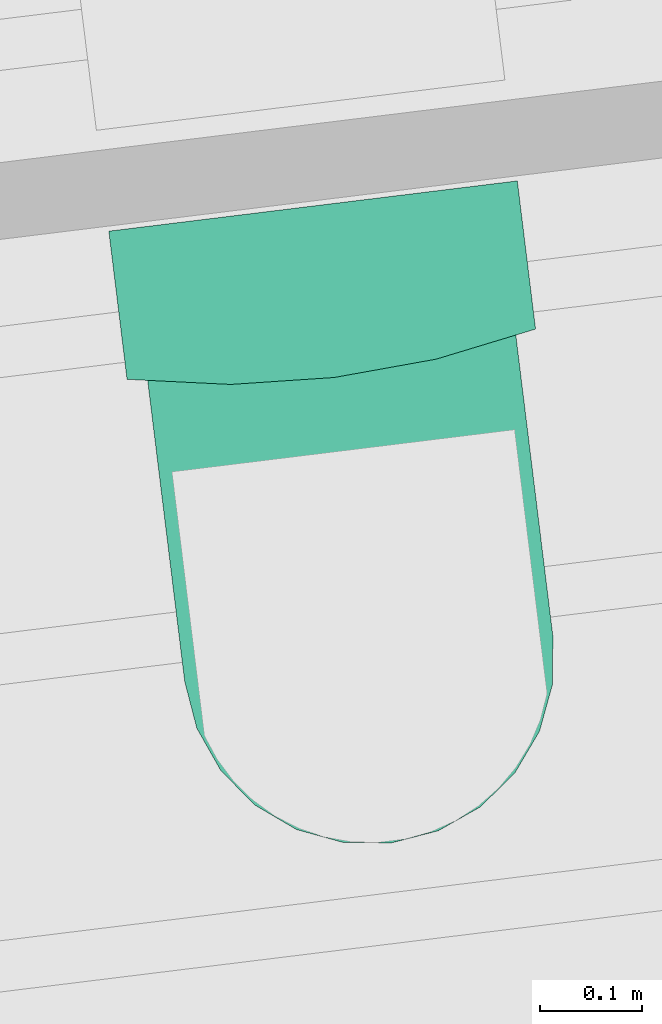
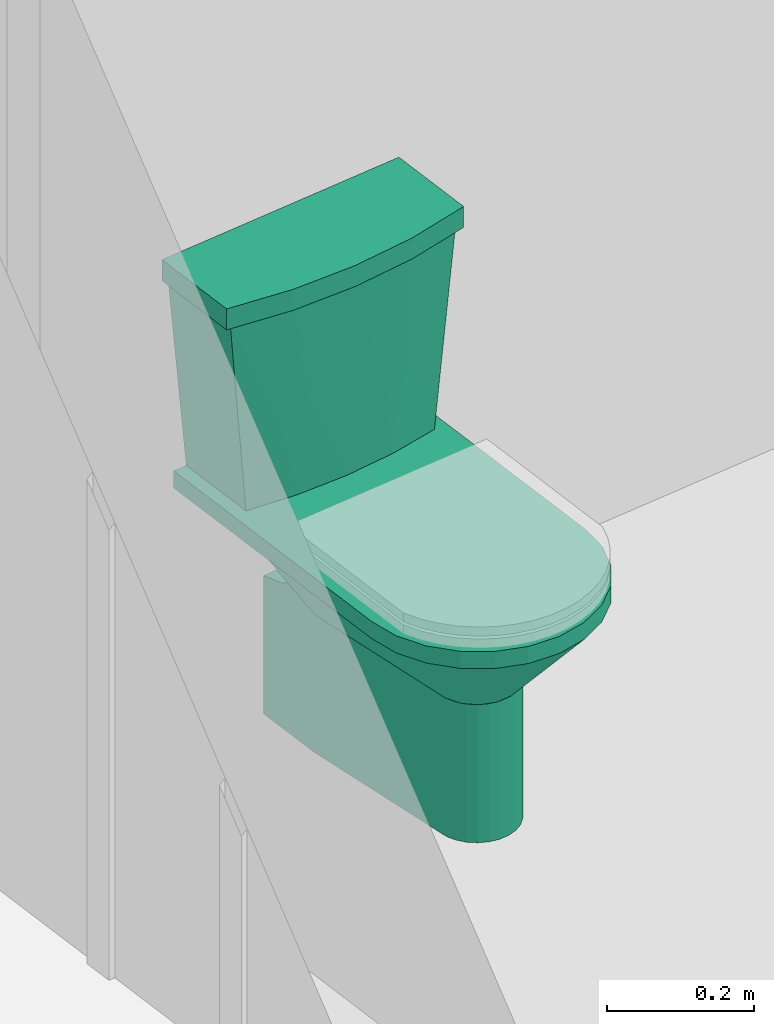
# One storey, part 55 of 75: 2 flow terminals.
"""IFC2X3 building model written with IfcOpenShell, lengths in metres."""

import ifcopenshell
import ifcopenshell.guid

model = None  # the IFC model being written
_history = None  # IfcOwnerHistory: only IFC2X3 demands one
_inside = {}  # id of a spatial element -> (the spatial element, [elements in it])
_under = {}  # id of a project, library or spatial element -> (it, [spatial elements below it])
_declared = {}  # id of a project -> (the project, [libraries it declares])
_typed = {}  # id of a type object -> (the type object, [elements of that type])
_made_of = {}  # id of a material, layer set ... -> (it, [elements and type objects made of it])


def new_model(schema):
    """Start an empty IFC model of exactly this schema.

    Asked for "IFC4X3", IfcOpenShell would pick the latest addendum, in which some entities
    have other attributes; the version numbers below select the first issue.
    IFC2X3 requires an IfcOwnerHistory on every rooted entity: one is made here for all.
    """
    global model, _history
    if schema == "IFC4X3":
        model = ifcopenshell.file(schema_version=(4, 3, 0, 0))
    else:
        model = ifcopenshell.file(schema=schema)
    _inside.clear()
    _under.clear()
    _declared.clear()
    _typed.clear()
    _made_of.clear()
    _history = None
    if model.schema == "IFC2X3":
        org = make("IfcOrganization", Name="unknown")
        user = make(
            "IfcPersonAndOrganization",
            ThePerson=make("IfcPerson", FamilyName="unknown"),
            TheOrganization=org,
        )
        app = make(
            "IfcApplication",
            ApplicationDeveloper=org,
            Version="unknown",
            ApplicationFullName="unknown",
            ApplicationIdentifier="unknown",
        )
        _history = make(
            "IfcOwnerHistory",
            OwningUser=user,
            OwningApplication=app,
            ChangeAction="ADDED",
            CreationDate=0,
        )
    return model


def make(cls, **values):
    """One entity of the class cls with the attributes given. An attribute that is None is left unset."""
    return model.create_entity(
        cls, **{name: value for name, value in values.items() if value is not None}
    )


def entity(cls, *values):
    """Any entity or typed value of the class cls, its attributes in the order of the schema. None: left unset."""
    e = model.create_entity(cls)
    for i, value in enumerate(values):
        if value is not None:
            e[i] = value
    return e


def rooted(cls, **values):
    """An entity with a GlobalId (a new one), such as an element, a storey or a relation."""
    return make(cls, GlobalId=ifcopenshell.guid.new(), OwnerHistory=_history, **values)


def si_unit(unit_type, name, prefix=None):
    """IfcSIUnit, for example si_unit("LENGTHUNIT", "METRE", prefix="MILLI")."""
    return make("IfcSIUnit", UnitType=unit_type, Prefix=prefix, Name=name)


def converted_unit(unit_type, name, factor, base, dimensions=None, offset=None):
    """IfcConversionBasedUnit, such as the inch: factor (a typed value) times the base unit."""
    return make(
        "IfcConversionBasedUnit"
        if offset is None
        else "IfcConversionBasedUnitWithOffset",
        ConversionOffset=offset,
        Dimensions=None
        if dimensions is None
        else entity("IfcDimensionalExponents", *dimensions),
        UnitType=unit_type,
        Name=name,
        ConversionFactor=make(
            "IfcMeasureWithUnit", ValueComponent=factor, UnitComponent=base
        ),
    )


def derived_unit(unit_type, elements):
    """IfcDerivedUnit: a product of units, each with its exponent."""
    return make(
        "IfcDerivedUnit",
        Elements=[
            make("IfcDerivedUnitElement", Unit=unit, Exponent=power)
            for unit, power in elements
        ],
        UnitType=unit_type,
    )


def assignment(units):
    """IfcUnitAssignment: the units of a project."""
    return None if units is None else make("IfcUnitAssignment", Units=units)


def point(xyz):
    """IfcCartesianPoint."""
    return None if xyz is None else make("IfcCartesianPoint", Coordinates=xyz)


def direction(xyz):
    """IfcDirection."""
    return None if xyz is None else make("IfcDirection", DirectionRatios=xyz)


def frame(location, z_axis=None, x_axis=None):
    """IfcAxis2Placement3D, a coordinate frame: its origin and axes. An axis left out is left unset."""
    return make(
        "IfcAxis2Placement3D",
        Location=point(location),
        Axis=direction(z_axis),
        RefDirection=direction(x_axis),
    )


def origin():
    """The frame at (0, 0, 0) with its axes left unset."""
    return frame((0.0, 0.0, 0.0))


def place(relative_to, where):
    """IfcLocalPlacement: puts the frame where relative to a parent placement (None: the world)."""
    return make(
        "IfcLocalPlacement", PlacementRelTo=relative_to, RelativePlacement=where
    )


def context(
    kind, dimensions, precision=None, world=None, true_north=None, identifier=None
):
    """IfcGeometricRepresentationContext, for example the 3D "Model" context."""
    return make(
        "IfcGeometricRepresentationContext",
        ContextIdentifier=identifier,
        ContextType=kind,
        CoordinateSpaceDimension=dimensions,
        Precision=precision,
        WorldCoordinateSystem=world,
        TrueNorth=true_north,
    )


def subcontext(parent, identifier, kind, view, scale=None):
    """IfcGeometricRepresentationSubContext, for example "Body" below "Model"."""
    return make(
        "IfcGeometricRepresentationSubContext",
        ContextIdentifier=identifier,
        ContextType=kind,
        ParentContext=parent,
        TargetScale=scale,
        TargetView=view,
    )


def project(units=None, contexts=None):
    """IfcProject with its units and contexts."""
    return rooted(
        "IfcProject",
        Name="project",
        RepresentationContexts=contexts,
        UnitsInContext=assignment(units),
    )


def spatial(cls, under=None, at=None, **own):
    """A site, building, storey or space (cls), placed at a placement, below another one or the project."""
    s = rooted(cls, ObjectPlacement=at, **own)
    if under is not None:
        _under.setdefault(under.id(), (under, []))[1].append(s)
    return s


def faces_of(points, faces, orient=None, outer=None):
    """IfcFace entities. A face is a list of loops; a loop is a list of indices into points, from 0.

    orient and outer hold one flag for each loop. By default every Orientation is true, the
    first loop of a face is its IfcFaceOuterBound and the others are IfcFaceBound.
    """
    made = []
    for i, loops in enumerate(faces):
        bounds = []
        for j, loop in enumerate(loops):
            is_outer = j == 0 if outer is None else outer[i][j]
            bounds.append(
                make(
                    "IfcFaceOuterBound" if is_outer else "IfcFaceBound",
                    Bound=make("IfcPolyLoop", Polygon=[points[k] for k in loop]),
                    Orientation=True if orient is None else orient[i][j],
                )
            )
        made.append(make("IfcFace", Bounds=bounds))
    return made


def faceted_brep(points, faces, orient=None, outer=None, voids=None):
    """IfcFacetedBrep: a solid bounded by flat faces; with voids (closed shells), ...WithVoids."""
    shared = [point(p) for p in points]
    hull = make("IfcClosedShell", CfsFaces=faces_of(shared, faces, orient, outer))
    if voids is None:
        return make("IfcFacetedBrep", Outer=hull)
    return make(
        "IfcFacetedBrepWithVoids",
        Outer=hull,
        Voids=[
            make(cls, CfsFaces=faces_of(shared, fs, o, b)) for cls, fs, o, b in voids
        ],
    )


def shape(context_of_items, identifier, shape_type, items):
    """IfcShapeRepresentation: the items that make up one representation, for example the "Body"."""
    return make(
        "IfcShapeRepresentation",
        ContextOfItems=context_of_items,
        RepresentationIdentifier=identifier,
        RepresentationType=shape_type,
        Items=items,
    )


def source(mapping_origin, context_of_items, identifier, shape_type, items):
    """IfcRepresentationMap: a shape defined once, which mapped items show again and again."""
    return make(
        "IfcRepresentationMap",
        MappingOrigin=mapping_origin,
        MappedRepresentation=shape(context_of_items, identifier, shape_type, items),
    )


def transform(
    local_origin,
    x_axis=None,
    y_axis=None,
    z_axis=None,
    scale=None,
    scale2=None,
    scale3=None,
    uniform=True,
):
    """IfcCartesianTransformationOperator3D, or its non-uniform kind. x_axis, y_axis, z_axis: its Axis1, 2, 3."""
    if uniform:
        return make(
            "IfcCartesianTransformationOperator3D",
            Axis1=direction(x_axis),
            Axis2=direction(y_axis),
            LocalOrigin=point(local_origin),
            Scale=scale,
            Axis3=direction(z_axis),
        )
    return make(
        "IfcCartesianTransformationOperator3DnonUniform",
        Axis1=direction(x_axis),
        Axis2=direction(y_axis),
        LocalOrigin=point(local_origin),
        Scale=scale,
        Axis3=direction(z_axis),
        Scale2=scale2,
        Scale3=scale3,
    )


def mapped(mapping_source, mapping_target):
    """IfcMappedItem: shows the shape of a source again, moved by a transform."""
    return make(
        "IfcMappedItem", MappingSource=mapping_source, MappingTarget=mapping_target
    )


def material(Name=None, Category=None):
    """IfcMaterial."""
    return make("IfcMaterial", Name=Name, Category=Category)


def material_list(materials):
    """IfcMaterialList."""
    return make("IfcMaterialList", Materials=materials)


def made_of(thing, what):
    """Note that an element or type object is made of a material, layer set ...; save() writes the relation."""
    if what is not None:
        _made_of.setdefault(what.id(), (what, []))[1].append(thing)
    return thing


def type_object(cls, material=None, **own):
    """A type object (cls), such as IfcWallType, which elements share."""
    return made_of(rooted(cls, **own), material)


def type_shapes(of_type, sources):
    """Give a type object the sources (RepresentationMaps) that its elements show as mapped items."""
    of_type.RepresentationMaps = sources


def element(
    cls,
    number,
    at=None,
    inside=None,
    cuts=None,
    type_object=None,
    material=None,
    context=None,
    identifier="Body",
    shape_type=None,
    held_by="IfcProductDefinitionShape",
    body=None,
    shapes=None,
    **own,
):
    """One element of the class cls, such as IfcWall. Its Tag is "e" and its number.

    at: its placement. inside: the storey or other place that contains it. cuts: it is an
    opening in that element (IfcRelVoidsElement). A single representation is given by context,
    identifier, shape_type and body (its items); several are given by shapes. held_by: the class
    of the entity that holds the representations. save() writes the other relations.
    """
    e = rooted(cls, Tag="e%d" % number, ObjectPlacement=at, **own)
    if body is not None:
        shapes = [shape(context, identifier, shape_type, body)]
    if shapes is not None:
        e.Representation = make(held_by, Representations=shapes)
    if inside is not None:
        _inside.setdefault(inside.id(), (inside, []))[1].append(e)
    if cuts is not None:
        rooted(
            "IfcRelVoidsElement", RelatingBuildingElement=cuts, RelatedOpeningElement=e
        )
    if type_object is not None:
        _typed.setdefault(type_object.id(), (type_object, []))[1].append(e)
    return made_of(e, material)


def aggregate(whole, parts):
    """IfcRelAggregates: a whole, such as a stair, and the parts it consists of."""
    return rooted("IfcRelAggregates", RelatingObject=whole, RelatedObjects=parts)


def save(model, path):
    """Write the relations noted so far, then the file.

    IfcRelAggregates (storeys below a building ...), IfcRelContainedInSpatialStructure (elements
    in a storey), IfcRelDefinesByType, IfcRelAssociatesMaterial and IfcRelDeclares: one each for
    every whole, place, type object, material and project.
    """
    for whole, parts in _under.values():
        aggregate(whole, parts)
    for where, things in _inside.values():
        rooted(
            "IfcRelContainedInSpatialStructure",
            RelatedElements=things,
            RelatingStructure=where,
        )
    for kind, things in _typed.values():
        rooted("IfcRelDefinesByType", RelatedObjects=things, RelatingType=kind)
    for what, things in _made_of.values():
        rooted("IfcRelAssociatesMaterial", RelatedObjects=things, RelatingMaterial=what)
    for by, libraries in _declared.values():
        rooted("IfcRelDeclares", RelatingContext=by, RelatedDefinitions=libraries)
    model.write(path)


model = new_model("IFC2X3")

# Units and contexts
model_context = context("Model", 3, precision=1e-05, world=origin(), true_north=direction((6.123031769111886e-17, 1.0)))
body_context = subcontext(model_context, "Body", "Model", "MODEL_VIEW")
ifc_project = project(units=[si_unit("LENGTHUNIT", "METRE"), si_unit("AREAUNIT", "SQUARE_METRE"), si_unit("VOLUMEUNIT", "CUBIC_METRE"), converted_unit("PLANEANGLEUNIT", "DEGREE", entity("IfcRatioMeasure", 0.017453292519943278), si_unit("PLANEANGLEUNIT", "RADIAN"), dimensions=[0, 0, 0, 0, 0, 0, 0]), si_unit("MASSUNIT", "GRAM", prefix="KILO"), derived_unit("MASSDENSITYUNIT", [(si_unit("MASSUNIT", "GRAM", prefix="KILO"), 1), (si_unit("LENGTHUNIT", "METRE"), -3)]), derived_unit("IONCONCENTRATIONUNIT", [(si_unit("MASSUNIT", "GRAM", prefix="KILO"), 1), (si_unit("LENGTHUNIT", "METRE"), -3)]), derived_unit("MOMENTOFINERTIAUNIT", [(si_unit("LENGTHUNIT", "METRE"), 4)]), si_unit("TIMEUNIT", "SECOND"), si_unit("FREQUENCYUNIT", "HERTZ"), si_unit("THERMODYNAMICTEMPERATUREUNIT", "DEGREE_CELSIUS"), derived_unit("THERMALTRANSMITTANCEUNIT", [(si_unit("MASSUNIT", "GRAM", prefix="KILO"), 1), (si_unit("THERMODYNAMICTEMPERATUREUNIT", "KELVIN"), -1), (si_unit("TIMEUNIT", "SECOND"), -3)]), derived_unit("THERMALCONDUCTANCEUNIT", [(si_unit("MASSUNIT", "GRAM", prefix="KILO"), 1), (si_unit("THERMODYNAMICTEMPERATUREUNIT", "KELVIN"), -1), (si_unit("TIMEUNIT", "SECOND"), -3), (si_unit("LENGTHUNIT", "METRE"), 1)]), derived_unit("VOLUMETRICFLOWRATEUNIT", [(si_unit("LENGTHUNIT", "METRE"), 3), (si_unit("TIMEUNIT", "SECOND"), -1)]), derived_unit("MASSFLOWRATEUNIT", [(si_unit("MASSUNIT", "GRAM", prefix="KILO"), 1), (si_unit("TIMEUNIT", "SECOND"), -1)]), derived_unit("ROTATIONALFREQUENCYUNIT", [(si_unit("TIMEUNIT", "SECOND"), -1)]), si_unit("ELECTRICCURRENTUNIT", "AMPERE"), si_unit("ELECTRICVOLTAGEUNIT", "VOLT"), si_unit("POWERUNIT", "WATT"), si_unit("FORCEUNIT", "NEWTON", prefix="KILO"), si_unit("ILLUMINANCEUNIT", "LUX"), si_unit("LUMINOUSFLUXUNIT", "LUMEN"), si_unit("LUMINOUSINTENSITYUNIT", "CANDELA"), derived_unit("USERDEFINED", [(si_unit("MASSUNIT", "GRAM", prefix="KILO"), -1), (si_unit("LENGTHUNIT", "METRE"), -2), (si_unit("TIMEUNIT", "SECOND"), 3), (si_unit("LUMINOUSFLUXUNIT", "LUMEN"), 1)]), derived_unit("USERDEFINED", [(si_unit("MASSUNIT", "GRAM", prefix="KILO"), 1), (si_unit("TIMEUNIT", "SECOND"), -3), (si_unit("LENGTHUNIT", "METRE"), 3), (si_unit("ELECTRICCURRENTUNIT", "AMPERE"), -2)]), derived_unit("SOUNDPOWERUNIT", [(si_unit("MASSUNIT", "GRAM", prefix="KILO"), 1), (si_unit("TIMEUNIT", "SECOND"), -3), (si_unit("LENGTHUNIT", "METRE"), 2)]), derived_unit("SOUNDPRESSUREUNIT", [(si_unit("MASSUNIT", "GRAM", prefix="KILO"), 1), (si_unit("LENGTHUNIT", "METRE"), -1), (si_unit("TIMEUNIT", "SECOND"), -2)]), derived_unit("LINEARVELOCITYUNIT", [(si_unit("LENGTHUNIT", "METRE"), 1), (si_unit("TIMEUNIT", "SECOND"), -1)]), si_unit("PRESSUREUNIT", "PASCAL"), derived_unit("USERDEFINED", [(si_unit("MASSUNIT", "GRAM", prefix="KILO"), 1), (si_unit("LENGTHUNIT", "METRE"), -2), (si_unit("TIMEUNIT", "SECOND"), -2)]), derived_unit("LINEARFORCEUNIT", [(si_unit("MASSUNIT", "GRAM", prefix="KILO"), 1), (si_unit("TIMEUNIT", "SECOND"), -2)]), derived_unit("PLANARFORCEUNIT", [(si_unit("MASSUNIT", "GRAM", prefix="KILO"), 1), (si_unit("LENGTHUNIT", "METRE"), -1), (si_unit("TIMEUNIT", "SECOND"), -2)]), derived_unit("SPECIFICHEATCAPACITYUNIT", [(si_unit("THERMODYNAMICTEMPERATUREUNIT", "KELVIN"), -1), (si_unit("LENGTHUNIT", "METRE"), 2), (si_unit("TIMEUNIT", "SECOND"), -2)]), derived_unit("HEATINGVALUEUNIT", [(si_unit("LENGTHUNIT", "METRE"), 2), (si_unit("TIMEUNIT", "SECOND"), -2)]), derived_unit("VAPORPERMEABILITYUNIT", [(si_unit("LENGTHUNIT", "METRE"), -1), (si_unit("TIMEUNIT", "SECOND"), 1)]), derived_unit("DYNAMICVISCOSITYUNIT", [(si_unit("MASSUNIT", "GRAM", prefix="KILO"), 1), (si_unit("TIMEUNIT", "SECOND"), -1), (si_unit("LENGTHUNIT", "METRE"), -1)]), derived_unit("THERMALEXPANSIONCOEFFICIENTUNIT", [(si_unit("THERMODYNAMICTEMPERATUREUNIT", "KELVIN"), -1)]), derived_unit("MODULUSOFELASTICITYUNIT", [(si_unit("MASSUNIT", "GRAM", prefix="KILO"), 1), (si_unit("LENGTHUNIT", "METRE"), -1), (si_unit("TIMEUNIT", "SECOND"), -2)]), derived_unit("ISOTHERMALMOISTURECAPACITYUNIT", [(si_unit("LENGTHUNIT", "METRE"), 3), (si_unit("MASSUNIT", "GRAM", prefix="KILO"), -1)]), derived_unit("MOISTUREDIFFUSIVITYUNIT", [(si_unit("TIMEUNIT", "SECOND"), -1), (si_unit("LENGTHUNIT", "METRE"), 2)])], contexts=[model_context])

# Site, building, storey
site_placement = place(None, origin())
site = spatial("IfcSite", under=ifc_project, at=site_placement, Name="Default", CompositionType="ELEMENT")
building_placement = place(site_placement, origin())
building = spatial("IfcBuilding", under=site, at=building_placement, Name="Projeto", CompositionType="ELEMENT")
storey_placement = place(building_placement, origin())
storey = spatial("IfcBuildingStorey", under=building, at=storey_placement, Name="Nível 1", CompositionType="ELEMENT", Elevation=0.0)

# Flow terminals
ifc_material_1 = material(Name="<Unnamed>")
ifc_material_2 = material(Name="Deca GE17 Branco Gelo Cerâmica")
ifc_material_list = material_list([ifc_material_1, ifc_material_2])
distribution_element_type_1 = type_object("IfcDistributionElementType", Name="Deca_Bacia Duna_P.707_Caixa Acoplada:Dual Flux 3 lpf / 6 lpf - Branco GE17", material=ifc_material_list)
shared_shape_1 = source(origin(), body_context, "Body", "Brep", [
    faceted_brep([(-8.963245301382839e-05, -0.005348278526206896, 0.2500000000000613), (0.012851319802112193, -0.005348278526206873, 0.2517037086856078), (0.024910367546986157, -0.0053482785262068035, 0.2566987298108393), (0.03526570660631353, -0.005348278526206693, 0.26464466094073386), (0.04321163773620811, -0.00534827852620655, 0.2750000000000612), (0.048206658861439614, -0.005348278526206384, 0.2870590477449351), (0.049910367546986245, -0.005348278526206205, 0.30000000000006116), (0.048206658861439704, -0.0053482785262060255, 0.31294095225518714), (0.04321163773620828, -0.005348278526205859, 0.32500000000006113), (0.03526570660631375, -0.005348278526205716, 0.3353553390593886), (0.02491036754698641, -0.005348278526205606, 0.34330127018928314), (0.01285131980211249, -0.005348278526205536, 0.3482962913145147), (-8.96324530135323e-05, -0.005348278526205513, 0.3500000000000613), (-0.013030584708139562, -0.005348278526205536, 0.3482962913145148), (-0.025089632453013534, -0.005348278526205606, 0.34330127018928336), (-0.03544497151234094, -0.005348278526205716, 0.3353553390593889), (-0.04339090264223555, -0.005348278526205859, 0.3250000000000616), (-0.048385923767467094, -0.0053482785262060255, 0.31294095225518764), (-0.05008963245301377, -0.005348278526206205, 0.30000000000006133), (-0.04838592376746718, -0.005348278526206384, 0.2870590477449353), (-0.04339090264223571, -0.00534827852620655, 0.27500000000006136), (-0.03544497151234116, -0.005348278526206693, 0.26464466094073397), (-0.025089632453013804, -0.0053482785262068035, 0.2566987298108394), (-0.013030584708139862, -0.005348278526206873, 0.25170370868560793), (-0.025089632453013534, 0.0, 0.3433012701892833), (-0.013030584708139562, 0.0, 0.3482962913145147), (-8.96324530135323e-05, 0.0, 0.35000000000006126), (0.01285131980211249, 0.0, 0.3482962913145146), (0.02491036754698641, 0.0, 0.343301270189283), (0.03526570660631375, 0.0, 0.33535533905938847), (0.04321163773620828, 0.0, 0.3250000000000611), (0.048206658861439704, 0.0, 0.3129409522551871), (0.049910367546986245, 0.0, 0.3000000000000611), (0.048206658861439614, 0.0, 0.28705904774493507), (0.04321163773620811, 0.0, 0.27500000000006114), (0.03526570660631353, 0.0, 0.2646446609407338), (0.024910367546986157, 0.0, 0.25669872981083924), (0.012851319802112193, 0.0, 0.25170370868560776), (-8.963245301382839e-05, 0.0, 0.25000000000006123), (-0.013030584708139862, 0.0, 0.2517037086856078), (-0.025089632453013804, 0.0, 0.25669872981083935), (-0.03544497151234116, 0.0, 0.2646446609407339), (-0.04339090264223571, 0.0, 0.27500000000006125), (-0.04838592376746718, 0.0, 0.2870590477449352), (-0.05008963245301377, 0.0, 0.3000000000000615), (-0.048385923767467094, 0.0, 0.31294095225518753), (-0.04339090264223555, 0.0, 0.32500000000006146), (-0.03544497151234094, 0.0, 0.33535533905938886)], [[[0, 1, 2, 3, 4, 5, 6, 7, 8, 9, 10, 11, 12, 13, 14, 15, 16, 17, 18, 19, 20, 21, 22, 23]], [[24, 25, 26, 27, 28, 29, 30, 31, 32, 33, 34, 35, 36, 37, 38, 39, 40, 41, 42, 43, 44, 45, 46, 47]], [[6, 32, 31, 7]], [[7, 31, 30, 8]], [[10, 9, 29, 28]], [[29, 9, 8, 30]], [[11, 10, 28, 27]], [[11, 27, 26, 12]], [[12, 26, 25, 13]], [[13, 25, 24, 14]], [[16, 15, 47, 46]], [[47, 15, 14, 24]], [[17, 16, 46, 45]], [[17, 45, 44, 18]], [[18, 44, 43, 19]], [[19, 43, 42, 20]], [[22, 21, 41, 40]], [[41, 21, 20, 42]], [[23, 22, 40, 39]], [[23, 39, 38, 0]], [[0, 38, 37, 1]], [[1, 37, 36, 2]], [[4, 3, 35, 34]], [[35, 3, 2, 36]], [[5, 4, 34, 33]], [[5, 33, 32, 6]]]),
    faceted_brep([(0.003594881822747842, -0.3715076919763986, 0.21691218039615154), (0.17879276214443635, -0.37150769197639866, 0.216912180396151), (0.17879276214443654, -0.3715076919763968, 0.34441218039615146), (0.17879276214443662, -0.3715076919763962, 0.38535083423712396), (0.1787927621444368, -0.37150769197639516, 0.4719121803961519), (0.17267823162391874, -0.37150769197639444, 0.5183566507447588), (0.15475133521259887, -0.37150769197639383, 0.5616360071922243), (0.12623376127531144, -0.37150769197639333, 0.598800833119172), (0.08906893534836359, -0.3715076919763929, 0.627318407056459), (0.0457895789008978, -0.3715076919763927, 0.6452453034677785), (-0.0006548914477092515, -0.37150769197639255, 0.6513598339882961), (-0.047099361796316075, -0.37150769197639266, 0.6452453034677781), (-0.09037871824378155, -0.3715076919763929, 0.6273184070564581), (-0.12754354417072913, -0.3715076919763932, 0.5988008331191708), (-0.15606111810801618, -0.3715076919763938, 0.5616360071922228), (-0.17398801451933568, -0.3715076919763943, 0.5183566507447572), (-0.18010254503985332, -0.371507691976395, 0.4719121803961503), (-0.18010254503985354, -0.37150769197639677, 0.34441218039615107), (-0.18010254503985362, -0.3715076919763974, 0.3022356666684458), (-0.18010254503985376, -0.37150769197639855, 0.21691218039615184), (0.003594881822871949, -0.2301144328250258, 0.2169121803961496), (-0.08160299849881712, -0.23011443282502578, 0.21691218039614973), (-0.07385487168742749, -0.23011443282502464, 0.3054736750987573), (-0.06610674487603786, -0.2301144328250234, 0.3940351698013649), (-0.058446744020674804, -0.23011443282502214, 0.4815893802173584), (-0.053690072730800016, -0.23011443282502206, 0.49294439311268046), (-0.048933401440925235, -0.23011443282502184, 0.5042994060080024), (-0.0402049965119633, -0.23011443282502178, 0.5129814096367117), (-0.03147659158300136, -0.2301144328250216, 0.521663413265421), (-0.020096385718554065, -0.2301144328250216, 0.5263594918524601), (-0.008716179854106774, -0.23011443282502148, 0.5310555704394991), (0.003594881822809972, -0.23011443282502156, 0.5310555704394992), (0.015905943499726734, -0.23011443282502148, 0.5310555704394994), (0.02728614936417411, -0.2301144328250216, 0.5263594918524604), (0.03866635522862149, -0.23011443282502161, 0.5216634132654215), (0.04739476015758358, -0.23011443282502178, 0.5129814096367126), (0.05612316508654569, -0.23011443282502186, 0.5042994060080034), (0.060879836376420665, -0.23011443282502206, 0.4929443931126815), (0.06563650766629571, -0.2301144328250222, 0.4815893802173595), (0.07349704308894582, -0.23011443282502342, 0.39174304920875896), (0.08135757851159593, -0.23011443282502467, 0.3018967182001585), (0.08879276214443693, -0.23011443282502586, 0.2169121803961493), (0.14378467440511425, -0.31650871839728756, 0.21691218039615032), (0.12339332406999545, -0.29423178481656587, 0.3446660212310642), (0.1189286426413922, -0.2927387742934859, 0.41323129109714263), (0.13477738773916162, -0.31650872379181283, 0.4756764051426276), (0.12221463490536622, -0.30081106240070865, 0.4767507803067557), (-0.13171801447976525, -0.31527324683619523, 0.4757609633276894), (-0.12004904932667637, -0.2944006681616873, 0.3475461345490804), (-0.1214550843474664, -0.29186369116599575, 0.28010337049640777), (-0.11927464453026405, -0.30081106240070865, 0.47675078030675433), (-0.1409276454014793, -0.31527325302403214, 0.216912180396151), (-0.10880249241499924, -0.29823220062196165, 0.5148337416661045), (-0.0951565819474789, -0.29586402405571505, 0.5362892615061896), (0.09839395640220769, -0.29586402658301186, 0.536289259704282), (0.11189751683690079, -0.29823221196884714, 0.5148337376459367), (-0.010981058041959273, -0.29984585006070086, 0.5903491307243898), (0.015909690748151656, -0.30276951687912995, 0.5926011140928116), (-0.036335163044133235, -0.2977191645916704, 0.5829795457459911), (-0.05869502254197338, -0.295864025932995, 0.5708816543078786), (-0.08011624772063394, -0.29640373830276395, 0.554957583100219), (0.08332117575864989, -0.2964037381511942, 0.5549575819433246), (0.04001913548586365, -0.2978798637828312, 0.5829307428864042), (0.0619323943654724, -0.2958640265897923, 0.5708816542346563)], [[[0, 1, 2, 3, 4, 5, 6, 7, 8, 9, 10, 11, 12, 13, 14, 15, 16, 17, 18, 19]], [[20, 21, 22, 23, 24, 25, 26, 27, 28, 29, 30, 31, 32, 33, 34, 35, 36, 37, 38, 39, 40, 41]], [[2, 42, 43]], [[44, 39, 38]], [[42, 41, 40]], [[42, 2, 1]], [[44, 43, 39]], [[44, 45, 3]], [[39, 43, 40]], [[40, 43, 42]], [[43, 3, 2]], [[4, 3, 45]], [[43, 44, 3]], [[44, 38, 46, 45]], [[17, 47, 48]], [[49, 22, 21]], [[23, 47, 50, 24]], [[47, 17, 16]], [[49, 48, 22]], [[49, 51, 18]], [[22, 48, 23]], [[23, 48, 47]], [[48, 18, 17]], [[19, 18, 51]], [[48, 49, 18]], [[51, 49, 21]], [[21, 20, 41, 42, 1, 0, 19, 51]], [[50, 52, 25]], [[53, 26, 52]], [[26, 53, 27]], [[35, 54, 36]], [[55, 46, 37]], [[14, 53, 52]], [[56, 57, 31]], [[12, 58, 59]], [[60, 53, 13]], [[60, 27, 53]], [[14, 13, 53]], [[59, 60, 13]], [[52, 26, 25]], [[15, 14, 52]], [[29, 28, 59]], [[60, 28, 27]], [[56, 58, 11]], [[52, 50, 15]], [[57, 56, 10]], [[10, 56, 11]], [[7, 54, 61]], [[29, 58, 30]], [[28, 60, 59]], [[31, 30, 56]], [[11, 58, 12]], [[6, 5, 55]], [[62, 33, 32]], [[7, 61, 63]], [[37, 36, 55]], [[6, 54, 7]], [[54, 35, 61]], [[55, 54, 6]], [[5, 4, 45, 46]], [[8, 7, 63]], [[5, 46, 55]], [[37, 46, 38]], [[61, 35, 34]], [[55, 36, 54]], [[32, 31, 57]], [[56, 30, 58]], [[62, 57, 9]], [[57, 10, 9]], [[34, 33, 63]], [[62, 63, 33]], [[29, 59, 58]], [[13, 12, 59]], [[34, 63, 61]], [[9, 8, 62]], [[8, 63, 62]], [[57, 62, 32]], [[15, 50, 47, 16]], [[50, 25, 24]]]),
    faceted_brep([(0.06516662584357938, 0.0, 0.48256971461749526), (0.08840864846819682, 0.0, 0.21691218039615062), (0.003125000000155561, 0.0, 0.2169121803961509), (-0.08215864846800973, 0.0, 0.21691218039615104), (-0.05891662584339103, 0.0, 0.48256971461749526), (-0.053630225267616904, 0.0, 0.4971785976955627), (-0.04496184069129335, 0.0, 0.5100714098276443), (-0.03342801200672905, 0.0, 0.5204798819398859), (-0.019716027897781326, 0.0, 0.5277837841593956), (-0.0046429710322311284, 0.0, 0.5315478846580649), (0.010892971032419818, 0.0, 0.5315478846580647), (0.025966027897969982, 0.0, 0.5277837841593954), (0.03967801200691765, 0.0, 0.5204798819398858), (0.0512118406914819, 0.0, 0.510071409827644), (0.05988022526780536, 0.0, 0.49717859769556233), (0.025966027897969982, -0.23011443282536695, 0.5277837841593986), (0.010892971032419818, -0.23011443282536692, 0.531547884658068), (-0.0046429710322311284, -0.23011443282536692, 0.5315478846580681), (-0.019716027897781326, -0.23011443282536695, 0.5277837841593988), (-0.03342801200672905, -0.23011443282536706, 0.520479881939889), (-0.04496184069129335, -0.23011443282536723, 0.5100714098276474), (-0.053630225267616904, -0.2301144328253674, 0.4971785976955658), (-0.05891662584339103, -0.2301144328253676, 0.4825697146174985), (-0.08215864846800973, -0.23011443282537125, 0.21691218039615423), (0.003125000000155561, -0.23011443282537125, 0.2169121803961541), (0.08840864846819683, -0.23011443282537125, 0.21691218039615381), (0.06516662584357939, -0.2301144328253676, 0.482569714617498), (0.05988022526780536, -0.2301144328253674, 0.49717859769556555), (0.0512118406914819, -0.23011443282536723, 0.5100714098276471), (0.03967801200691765, -0.23011443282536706, 0.5204798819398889)], [[[0, 1, 2, 3, 4, 5, 6, 7, 8, 9, 10, 11, 12, 13, 14]], [[15, 16, 17, 18, 19, 20, 21, 22, 23, 24, 25, 26, 27, 28, 29]], [[25, 1, 0, 26]], [[23, 22, 4, 3]], [[23, 3, 2, 1, 25, 24]], [[28, 27, 14, 13]], [[14, 27, 26, 0]], [[15, 29, 12, 11]], [[13, 12, 29, 28]], [[16, 15, 11, 10]], [[10, 9, 17, 16]], [[18, 17, 9, 8]], [[18, 8, 7, 19]], [[21, 20, 6, 5]], [[7, 6, 20, 19]], [[22, 21, 5, 4]]]),
    faceted_brep([(-0.14835649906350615, -0.2061336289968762, -0.00923038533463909), (-0.14999999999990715, -0.20634999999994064, -0.00923038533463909), (-0.15164350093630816, -0.2061336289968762, -0.00923038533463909), (-0.15317499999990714, -0.2054992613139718, -0.00923038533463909), (-0.1544901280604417, -0.20449012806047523, -0.00923038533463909), (-0.15549926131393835, -0.20317499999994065, -0.00923038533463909), (-0.15613362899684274, -0.20164350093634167, -0.00923038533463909), (-0.15634999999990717, -0.19999999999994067, -0.00923038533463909), (-0.15613362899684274, -0.19835649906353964, -0.00923038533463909), (-0.15549926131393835, -0.19682499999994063, -0.00923038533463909), (-0.15449012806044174, -0.19550987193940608, -0.00923038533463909), (-0.1531749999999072, -0.19450073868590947, -0.00923038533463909), (-0.15164350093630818, -0.19386637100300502, -0.00923038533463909), (-0.14999999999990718, -0.19364999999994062, -0.00923038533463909), (-0.14835649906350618, -0.19386637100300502, -0.00923038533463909), (-0.1468249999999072, -0.19450073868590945, -0.00923038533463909), (-0.1455098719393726, -0.19550987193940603, -0.00923038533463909), (-0.14450073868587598, -0.1968249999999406, -0.00923038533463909), (-0.1438663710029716, -0.19835649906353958, -0.00923038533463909), (-0.14364999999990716, -0.19999999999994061, -0.00923038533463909), (-0.1438663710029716, -0.20164350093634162, -0.00923038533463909), (-0.14450073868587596, -0.20317499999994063, -0.00923038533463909), (-0.1455098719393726, -0.20449012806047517, -0.00923038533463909), (-0.14682499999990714, -0.2054992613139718, -0.00923038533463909), (-0.14835649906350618, -0.19386637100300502, 0.0), (-0.14999999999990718, -0.19364999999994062, 0.0), (-0.15164350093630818, -0.19386637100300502, 0.0), (-0.1531749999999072, -0.19450073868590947, 0.0), (-0.15449012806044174, -0.19550987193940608, 0.0), (-0.15549926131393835, -0.19682499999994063, 0.0), (-0.15613362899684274, -0.19835649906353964, 0.0), (-0.15634999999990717, -0.19999999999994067, 0.0), (-0.15613362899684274, -0.20164350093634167, 0.0), (-0.15549926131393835, -0.20317499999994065, 0.0), (-0.1544901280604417, -0.20449012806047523, 0.0), (-0.15317499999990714, -0.2054992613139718, 0.0), (-0.15164350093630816, -0.2061336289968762, 0.0), (-0.14999999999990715, -0.20634999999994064, 0.0), (-0.14835649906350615, -0.2061336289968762, 0.0), (-0.14682499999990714, -0.2054992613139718, 0.0), (-0.1455098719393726, -0.20449012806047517, 0.0), (-0.14450073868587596, -0.20317499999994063, 0.0), (-0.1438663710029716, -0.20164350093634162, 0.0), (-0.14364999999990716, -0.1999999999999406, 0.0), (-0.1438663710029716, -0.19835649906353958, 0.0), (-0.14450073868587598, -0.1968249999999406, 0.0), (-0.1455098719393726, -0.19550987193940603, 0.0), (-0.1468249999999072, -0.19450073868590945, 0.0)], [[[0, 1, 2, 3, 4, 5, 6, 7, 8, 9, 10, 11, 12, 13, 14, 15, 16, 17, 18, 19, 20, 21, 22, 23]], [[24, 25, 26, 27, 28, 29, 30, 31, 32, 33, 34, 35, 36, 37, 38, 39, 40, 41, 42, 43, 44, 45, 46, 47]], [[7, 31, 30, 8]], [[8, 30, 29, 9]], [[11, 10, 28, 27]], [[28, 10, 9, 29]], [[12, 11, 27, 26]], [[12, 26, 25, 13]], [[13, 25, 24, 14]], [[14, 24, 47, 15]], [[17, 16, 46, 45]], [[46, 16, 15, 47]], [[18, 17, 45, 44]], [[18, 44, 43, 19]], [[19, 43, 42, 20]], [[20, 42, 41, 21]], [[23, 22, 40, 39]], [[40, 22, 21, 41]], [[0, 23, 39, 38]], [[0, 38, 37, 1]], [[1, 37, 36, 2]], [[2, 36, 35, 3]], [[5, 4, 34, 33]], [[34, 4, 3, 35]], [[6, 5, 33, 32]], [[6, 32, 31, 7]]]),
    faceted_brep([(0.08859628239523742, 0.0, 0.21691218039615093), (0.08859628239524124, -0.37150769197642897, 0.2169121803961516), (0.08859628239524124, -0.37150769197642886, 0.16417686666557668), (0.08859628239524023, -0.27383450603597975, 0.16417686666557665), (0.08859628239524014, -0.2648049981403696, 0.162897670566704), (0.08859628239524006, -0.25641226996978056, 0.15932969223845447), (0.08859628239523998, -0.24922587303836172, 0.15371506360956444), (0.08859628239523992, -0.2437334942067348, 0.14643480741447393), (0.0885962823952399, -0.24030786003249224, 0.1379829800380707), (0.08859628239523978, -0.23011443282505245, 0.09879143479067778), (0.08859628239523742, 0.0, 0.09879143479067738), (-0.08234628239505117, -0.27383450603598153, 0.16417686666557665), (-0.08234628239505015, -0.3715076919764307, 0.16417686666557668), (-0.08234628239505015, -0.37150769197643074, 0.2169121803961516), (-0.08234628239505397, 0.0, 0.21691218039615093), (-0.08234628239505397, 0.0, 0.09879143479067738), (-0.08234628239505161, -0.2301144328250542, 0.09879143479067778), (-0.0823462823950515, -0.24030786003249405, 0.13798298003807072), (-0.08234628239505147, -0.24373349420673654, 0.14643480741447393), (-0.08234628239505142, -0.24922587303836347, 0.15371506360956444), (-0.08234628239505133, -0.25641226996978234, 0.15932969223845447), (-0.08234628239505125, -0.26480499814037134, 0.162897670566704)], [[[0, 1, 2, 3, 4, 5, 6, 7, 8, 9, 10]], [[11, 12, 13, 14, 15, 16, 17, 18, 19, 20, 21]], [[16, 9, 8, 17]], [[18, 17, 8, 7]], [[19, 18, 7, 6]], [[6, 5, 20, 19]], [[21, 20, 5, 4]], [[11, 21, 4, 3]], [[12, 11, 3, 2]], [[12, 2, 1, 13]], [[16, 15, 10, 9]], [[13, 1, 0, 14]], [[14, 0, 10, 15]]]),
    faceted_brep([(-0.18249999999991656, -0.39999999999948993, 0.46886530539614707), (-0.18249999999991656, -0.39999999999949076, 0.020115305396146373), (0.18249999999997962, -0.39999999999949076, 0.020115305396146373), (0.18249999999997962, -0.39999999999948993, 0.46886530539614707), (0.17628146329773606, -0.3999999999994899, 0.5160997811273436), (0.15804963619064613, -0.3999999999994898, 0.5601153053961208), (0.12904698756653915, -0.3999999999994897, 0.5979122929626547), (0.09125000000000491, -0.39999999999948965, 0.6269149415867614), (0.04723447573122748, -0.39999999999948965, 0.6451467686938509), (0.0, -0.39999999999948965, 0.6513653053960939), (-0.047234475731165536, -0.39999999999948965, 0.6451467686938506), (-0.09124999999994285, -0.39999999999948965, 0.6269149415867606), (-0.12904698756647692, -0.3999999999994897, 0.5979122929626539), (-0.15804963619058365, -0.3999999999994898, 0.5601153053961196), (-0.1762814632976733, -0.3999999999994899, 0.5160997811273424), (-0.09124999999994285, -0.371507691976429, 0.6269149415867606), (-0.047234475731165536, -0.371507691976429, 0.6451467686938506), (0.0, -0.371507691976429, 0.6513653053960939), (0.04723447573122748, -0.371507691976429, 0.6451467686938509), (0.09125000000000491, -0.371507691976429, 0.6269149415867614), (0.12904698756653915, -0.37150769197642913, 0.5979122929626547), (0.15804963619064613, -0.3715076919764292, 0.5601153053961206), (0.17628146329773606, -0.37150769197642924, 0.5160997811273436), (0.18249999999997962, -0.3715076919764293, 0.46886530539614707), (0.18249999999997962, -0.37150769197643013, 0.020115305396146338), (-0.18249999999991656, -0.37150769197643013, 0.020115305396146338), (-0.18249999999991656, -0.3715076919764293, 0.46886530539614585), (-0.1762814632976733, -0.37150769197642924, 0.5160997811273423), (-0.15804963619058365, -0.3715076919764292, 0.5601153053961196), (-0.12904698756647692, -0.37150769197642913, 0.5979122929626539)], [[[0, 1, 2, 3, 4, 5, 6, 7, 8, 9, 10, 11, 12, 13, 14]], [[15, 16, 17, 18, 19, 20, 21, 22, 23, 24, 25, 26, 27, 28, 29]], [[25, 1, 0, 26]], [[24, 23, 3, 2]], [[25, 24, 2, 1]], [[26, 0, 14, 27]], [[27, 14, 13, 28]], [[15, 29, 12, 11]], [[12, 29, 28, 13]], [[16, 15, 11, 10]], [[16, 10, 9, 17]], [[17, 9, 8, 18]], [[18, 8, 7, 19]], [[21, 20, 6, 5]], [[6, 20, 19, 7]], [[22, 21, 5, 4]], [[22, 4, 3, 23]]]),
])
type_shapes(distribution_element_type_1, [shared_shape_1])
flow_terminal_1_placement = place(storey_placement, frame((-17.871738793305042, 28.746401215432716, -2.574999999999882), z_axis=(0.12215242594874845, -0.9925113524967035, 0.0), x_axis=(-0.9925113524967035, -0.12215242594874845, 0.0)))
element("IfcFlowTerminal", 1, at=flow_terminal_1_placement, inside=storey, type_object=distribution_element_type_1, material=ifc_material_list, Name="Deca_Bacia Duna_P.707_Caixa Acoplada:Dual Flux 3 lpf / 6 lpf - Branco GE17", ObjectType="Deca_Bacia Duna_P.707_Caixa Acoplada:Dual Flux 3 lpf / 6 lpf - Branco GE17", context=body_context, shape_type="MappedRepresentation", body=[
    mapped(shared_shape_1, transform((0.0, 0.0, 0.0), scale=1.0)),
])
distribution_element_type_2 = type_object("IfcDistributionElementType", Name="Deca_Shared_Caixa Acoplada_P.707:Dual Flux 3 lpf / 6 lpf - Branco GE17", material=ifc_material_2)
shared_shape_2 = source(origin(), body_context, "Body", "Brep", [
    faceted_brep([(0.1610411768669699, 0.0, 2.424032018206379e-06), (-0.16104117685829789, 0.0, 2.424032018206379e-06), (-0.1610411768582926, 0.0, 0.13556284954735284), (-0.08089912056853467, 0.0, 0.1472183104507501), (0.0, 0.0, 0.15095076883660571), (0.08089912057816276, 0.0, 0.14721831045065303), (0.1610411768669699, 0.0, 0.13556284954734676), (0.19226276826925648, -0.3250888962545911, 0.14159522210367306), (0.09670881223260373, -0.32508889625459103, 0.15729507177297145), (0.0, -0.32508889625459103, 0.16223970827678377), (-0.09670881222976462, -0.32508889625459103, 0.15729507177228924), (-0.19226276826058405, -0.3250888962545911, 0.14159522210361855), (-0.19226276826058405, -0.3250888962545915, 2.424032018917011e-06), (0.19226276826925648, -0.3250888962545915, 2.424032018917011e-06), (-0.1725797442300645, -0.12014314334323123, 0.13779223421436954), (-0.057231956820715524, -0.162544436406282, 0.15487758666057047), (-0.11135092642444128, -0.16254444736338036, 0.1496496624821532), (0.0, -0.12014314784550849, 0.1551228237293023), (0.12025459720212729, -0.16254443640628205, 0.14845002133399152), (0.06619470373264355, -0.16254444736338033, 0.1542550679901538), (0.17257974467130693, -0.12014314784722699, 0.1377922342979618)], [[[0, 1, 2, 3, 4, 5, 6]], [[7, 8, 9, 10, 11, 12, 13]], [[12, 11, 14, 2, 1]], [[9, 15, 10]], [[14, 11, 16, 2]], [[15, 4, 3]], [[15, 3, 16]], [[17, 4, 15, 9]], [[10, 15, 16]], [[10, 16, 11]], [[16, 3, 2]], [[7, 18, 8]], [[17, 9, 19, 4]], [[18, 6, 5]], [[18, 5, 19]], [[20, 6, 18, 7]], [[8, 18, 19]], [[8, 19, 9]], [[19, 5, 4]], [[6, 20, 7, 13, 0]], [[0, 13, 12, 1]]]),
    faceted_brep([(-0.20250242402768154, -0.36000000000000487, 0.0), (0.20249757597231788, -0.36000000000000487, 0.0), (0.20249757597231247, -0.3600000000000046, 0.14692236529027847), (0.10191608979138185, -0.3600000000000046, 0.16432721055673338), (-2.4240372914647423e-06, -0.3600000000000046, 0.16999999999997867), (-0.10192093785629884, -0.3600000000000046, 0.1643272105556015), (-0.20250242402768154, -0.3600000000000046, 0.14692236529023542), (-0.20250242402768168, -0.32508889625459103, 0.14692236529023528), (-0.10192093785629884, -0.32508889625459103, 0.16432721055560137), (-2.4240372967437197e-06, -0.32508889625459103, 0.16999999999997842), (0.10191608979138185, -0.32508889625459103, 0.16432721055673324), (0.20249757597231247, -0.32508889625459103, 0.14692236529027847), (0.20249757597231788, -0.3250888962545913, 0.0), (-0.20250242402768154, -0.3250888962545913, 0.0)], [[[0, 1, 2, 3, 4, 5, 6]], [[7, 8, 9, 10, 11, 12, 13]], [[13, 0, 6, 7]], [[6, 5, 8, 7]], [[4, 9, 8, 5]], [[4, 3, 10, 9]], [[2, 11, 10, 3]], [[11, 2, 1, 12]], [[12, 1, 0, 13]]]),
])
type_shapes(distribution_element_type_2, [shared_shape_2])
flow_terminal_2_placement = place(storey_placement, frame((-17.869298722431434, 28.72655062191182, -2.174997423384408), z_axis=(0.12215242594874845, -0.9925113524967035, 0.0), x_axis=(-0.9925113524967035, -0.12215242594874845, 0.0)))
element("IfcFlowTerminal", 2, at=flow_terminal_2_placement, inside=storey, type_object=distribution_element_type_2, material=ifc_material_2, Name="Deca_Shared_Caixa Acoplada_P.707:Dual Flux 3 lpf / 6 lpf - Branco GE17", ObjectType="Deca_Shared_Caixa Acoplada_P.707:Dual Flux 3 lpf / 6 lpf - Branco GE17", context=body_context, shape_type="MappedRepresentation", body=[
    mapped(shared_shape_2, transform((0.0, 0.0, 0.0), scale=1.0)),
])

save(model, "model.ifc")
